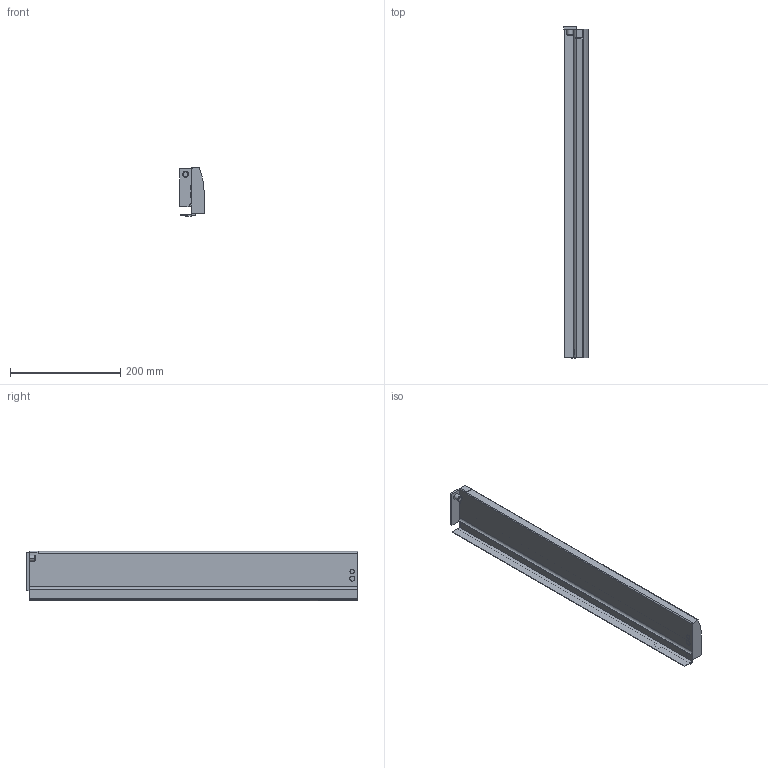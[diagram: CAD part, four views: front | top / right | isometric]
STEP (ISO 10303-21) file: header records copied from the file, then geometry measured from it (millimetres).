
FILE_DESCRIPTION (( 'STEP AP214' ), '1' );
FILE_NAME ('_IMOS_NOVA-Pro_Dekor-H90_DL_NL600_RE.step', '2010-07-06T09:14:20', ( 'grass' ), ( '' ), 'SwSTEP 2.0', 'SolidWorks 2009', '' );
FILE_SCHEMA (( 'AUTOMOTIVE_DESIGN' ));
Length unit declared in the file: millimetre
Products named in the file (1): _IMOS_NOVA-Pro_Dekor-H90_DL_NL600_RE
Bounding box: 44.3 x 602.7 x 90.49 mm (x, y, z)
Volume: 651074.9 mm3; surface area: 205541.9 mm2
Topology: 1 solids, 1 shells, 69 faces, 182 edges, 120 vertices
Faces by surface type: plane 47, cylinder 17, cone 4, bspline 1
Entity records: 2168 total; most frequent: CARTESIAN_POINT 393, ORIENTED_EDGE 364, DIRECTION 357, EDGE_CURVE 182, VECTOR 141, LINE 141, VERTEX_POINT 120, AXIS2_PLACEMENT_3D 108
